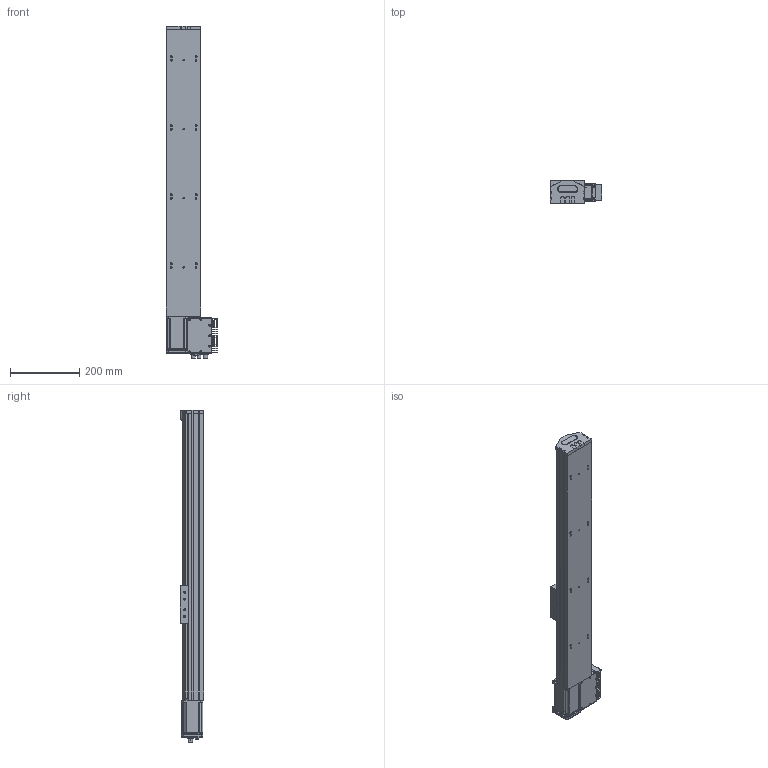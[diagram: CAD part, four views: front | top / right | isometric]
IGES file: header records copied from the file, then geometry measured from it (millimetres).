
Start section: SolidWorks IGES file using analytic representation for surfaces
Global section: file name: C:\Documents and Settings\1EDPI\Mes documents\yanize\S 10 TSH MD\S 10 TSH MD S600.IGS; native system: SolidWorks 2010; preprocessor: SolidWorks 2010; author: 1EDPI; date: 120829.134906; units: millimetre
Bounding box: 148.26 x 66.75 x 961.6 mm (x, y, z)
Surface area: 638618.7 mm2 (no closed solid volume)
Topology: 0 solids, 0 shells, 1726 faces, 23592 edges, 23564 vertices
Faces by surface type: revolution 924, bspline 802
